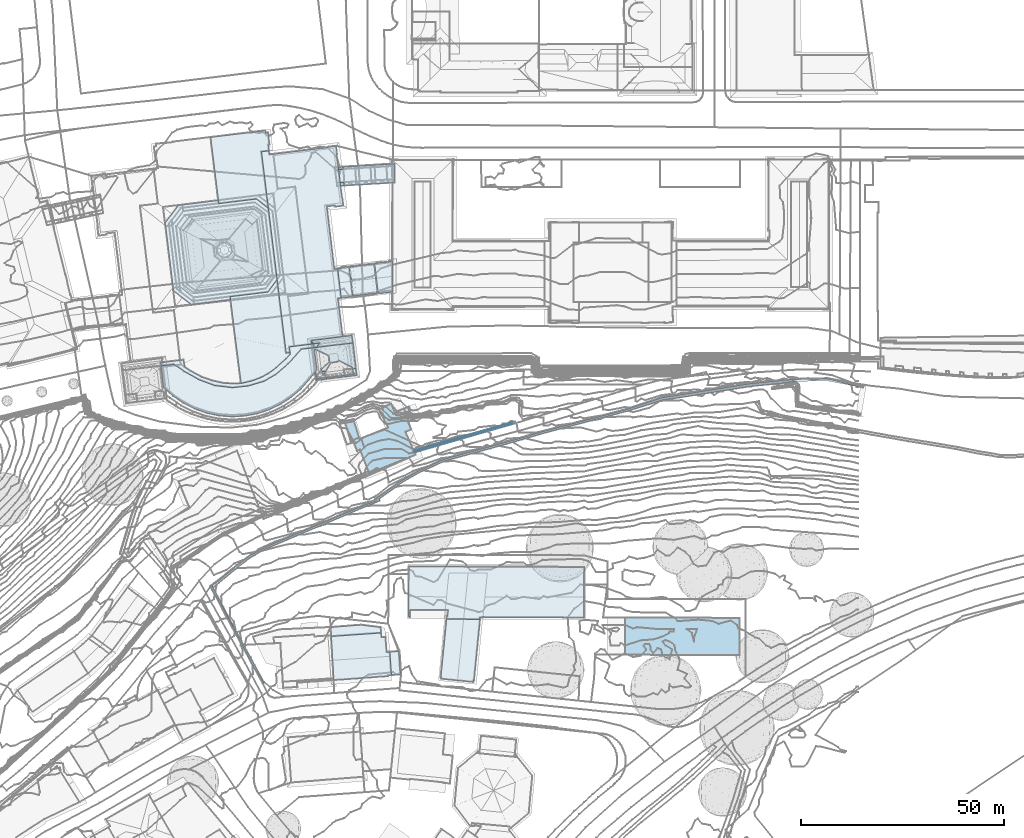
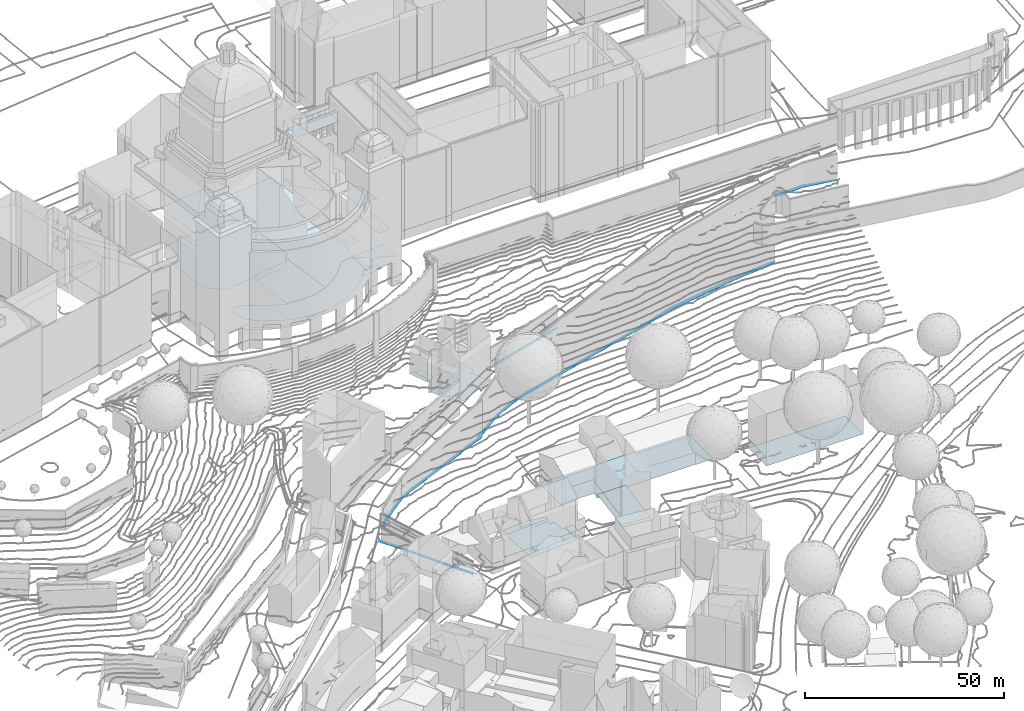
# Not in any storey, part 17 of 477: 7 footings.
"""IFC4 building model written with IfcOpenShell, lengths in metres."""

from ifc_helpers import new_model, si_unit, frame, origin_with_axes, place, context, subcontext, project, spatial, polygons, element, save


model = new_model("IFC4")

# Units and contexts
model_context = context("Model", 3, precision=1e-05, world=origin_with_axes())
body_context = subcontext(model_context, "Body", "Model", "MODEL_VIEW")
ifc_project = project(units=[si_unit("AREAUNIT", "SQUARE_METRE"), si_unit("LENGTHUNIT", "METRE")], contexts=[model_context])

# Sites, building
site_1_placement = place(None, origin_with_axes())
site_1 = spatial("IfcSite", under=ifc_project, at=site_1_placement, Name="Topoexport Site")
site_2_placement = place(site_1_placement, origin_with_axes())
site_2 = spatial("IfcSite", under=site_1, at=site_2_placement, Name="TPX_BUILDINGS")
building_1_placement = place(site_2_placement, frame((211.8297320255, 101.9383160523, 526.7541), z_axis=(0.0, 0.0, 1.0), x_axis=(1.0, 0.0, 0.0)))
building_1 = spatial("IfcBuilding", under=site_2, at=building_1_placement, Name="Building 18", CompositionType="ELEMENT")

# Footings
footing_1_placement = place(None, frame((211.8297320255, 101.9383160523, 526.7541), z_axis=(0.0, 0.0, 1.0), x_axis=(1.0, 0.0, 0.0)))
element("IfcFooting", 1, at=footing_1_placement, inside=building_1, Name="Floor 8", context=body_context, shape_type="Tessellation", body=[
    polygons([(366.9020000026, 236.121100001, -10.155), (376.1530000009, 238.4004000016, -10.155), (367.0130000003, 235.7421999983, -10.155), (376.0439999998, 238.7793000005, -10.155), (391.1020000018, 243.1074000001, -10.155), (391.2110000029, 242.7285000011, -10.155)], [[[1, 2, 3]], [[1, 4, 2]], [[5, 6, 2]], [[2, 4, 5]]]),
])
footing_2_placement = place(None, frame((211.8297320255, 101.9383160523, 526.7541), z_axis=(0.0, 0.0, 1.0), x_axis=(1.0, 0.0, 0.0)))
element("IfcFooting", 2, at=footing_2_placement, inside=building_1, Name="Floor 13", context=body_context, shape_type="Tessellation", body=[
    polygons([(358.4250000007, 224.3143999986, -20.483), (357.693, 223.8564000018, -20.483), (357.5240000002, 224.2617000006, -20.483), (364.5199999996, 228.5967000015, -20.483), (358.6170000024, 223.8066000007, -20.483), (353.4940000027, 222.2256000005, -20.483), (368.4070000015, 230.8134999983, -20.483), (364.1030000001, 228.8671999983, -20.483), (368.0720000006, 231.1268999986, -20.483), (374.5850000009, 233.6180999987, -20.483), (354.0190000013, 221.9697000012, -20.483), (330.8900000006, 212.6229999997, -20.483), (330.8370000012, 212.0936999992, -20.483), (329.2880000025, 211.7743999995, -20.483), (329.5329999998, 211.4404000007, -20.483), (327.0160000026, 210.5722000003, -20.483), (336.2930000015, 214.442400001, -20.483), (348.3960000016, 219.5342000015, -20.483), (348.2180000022, 219.9853000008, -20.483), (336.1300000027, 214.8555000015, -20.483), (389.7030000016, 237.7754000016, -20.4831), (383.9270000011, 236.6893999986, -20.4831), (389.574000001, 238.2432000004, -20.4831), (374.4420000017, 234.0780999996, -20.483), (393.450000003, 239.3104999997, -20.4831), (393.5760000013, 238.8729999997, -20.4831), (419.2030000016, 246.2578000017, -20.4829), (420.126000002, 246.566399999, -20.4829), (420.2829999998, 246.1229999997, -20.4829), (398.756000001, 240.9004000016, -20.4829), (405.6400000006, 242.7030999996, -20.4829), (398.893000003, 240.4354999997, -20.4829), (427.9169999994, 249.1737999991, -20.483), (428.0439999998, 248.5469000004, -20.483), (405.756000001, 242.2626999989, -20.4829), (384.068, 236.1963, -20.4831), (419.3350000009, 245.8231999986, -20.4829), (436.8360000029, 249.9111000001, -20.483), (460.1730000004, 253.6708999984, -0.3199), (468.6530000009, 253.8467000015, -0.3198), (460.2239999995, 253.1543000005, -0.3199), (477.4600000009, 251.6347999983, -0.3199), (468.6080000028, 253.2734000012, -0.3199), (460.2239999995, 253.1543000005, -20.483), (449.7650000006, 252.6308000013, -20.4829), (457.7770000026, 253.4296999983, -20.483), (460.1730000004, 253.6680000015, -20.483), (457.8430000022, 252.7675999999, -20.483), (436.7320000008, 250.5683000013, -20.483), (449.8500000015, 251.9706999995, -20.483), (322.7210000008, 192.8222999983, -25.2756), (322.4910000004, 192.7012000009, -25.2756), (320.0100000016, 197.3916000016, -25.2756), (320.2380000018, 197.5185000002, -25.2756), (316.9629999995, 202.6484000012, -25.2756), (317.3619999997, 202.9580000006, -25.2756), (323.4299999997, 191.4824000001, -25.2756), (330.1400000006, 179.2109000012, -25.2756), (327.4610000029, 183.2256000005, -25.2756), (327.8320000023, 183.4316000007, -25.2756), (330.2019999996, 179.1581999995, -25.2756), (329.9570000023, 179.0137000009, -25.2756), (325.9310000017, 186.9092000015, -25.2756), (325.6339999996, 186.7373000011, -25.2756), (327.3210000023, 210.2148000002, -20.483), (323.7280000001, 207.5370999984, -20.483), (325.4169999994, 209.3729999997, -20.483), (325.7039999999, 209.0243999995, -20.483), (319.1640000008, 203.6992000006, -20.483), (318.8420000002, 204.1103000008, -20.483), (317.6300000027, 202.4512000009, -20.483), (323.4570000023, 207.9023000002, -20.483), (317.3619999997, 202.9580000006, -20.483)], [[[1, 2, 3]], [[3, 4, 1]], [[2, 5, 6]], [[5, 2, 1]], [[7, 8, 9]], [[9, 10, 7]], [[3, 8, 4]], [[8, 7, 4]], [[5, 11, 6]], [[12, 13, 14]], [[15, 16, 14]], [[14, 13, 15]], [[17, 13, 12]], [[11, 18, 19]], [[19, 6, 11]], [[18, 17, 20]], [[20, 19, 18]], [[17, 12, 20]], [[21, 22, 23]], [[22, 10, 24]], [[25, 26, 23]], [[27, 28, 29]], [[30, 31, 32]], [[33, 34, 28]], [[30, 32, 25]], [[31, 27, 35]], [[21, 23, 26]], [[10, 22, 36]], [[21, 36, 22]], [[26, 25, 32]], [[37, 27, 29]], [[32, 31, 35]], [[35, 27, 37]], [[33, 38, 34]], [[29, 28, 34]], [[10, 9, 24]], [[39, 40, 41]], [[40, 42, 43]], [[43, 41, 40]], [[44, 45, 46]], [[47, 44, 46]], [[48, 45, 44]], [[33, 49, 38]], [[49, 45, 50]], [[50, 38, 49]], [[45, 48, 50]], [[51, 52, 53]], [[51, 53, 54]], [[54, 55, 56]], [[55, 54, 53]], [[51, 57, 52]], [[58, 59, 60]], [[58, 61, 62]], [[58, 62, 59]], [[52, 57, 63]], [[63, 64, 52]], [[63, 60, 64]], [[59, 64, 60]], [[65, 16, 15]], [[16, 66, 67]], [[16, 65, 68]], [[16, 68, 66]], [[66, 69, 70]], [[69, 71, 70]], [[72, 66, 70]], [[70, 71, 73]], [[72, 67, 66]]]),
])

# Building
building_2_placement = place(site_2_placement, frame((577.4937320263, 297.2000160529, 499.3887), z_axis=(0.0, 0.0, 1.0), x_axis=(1.0, 0.0, 0.0)))
building_2 = spatial("IfcBuilding", under=site_2, at=building_2_placement, Name="Building 173", CompositionType="ELEMENT")

# Footing
footing_3_placement = place(None, frame((577.4937320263, 297.2000160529, 499.3887), z_axis=(0.0, 0.0, 1.0), x_axis=(1.0, 0.0, 0.0)))
element("IfcFooting", 3, at=footing_3_placement, inside=building_2, Name="Floor 0", context=body_context, shape_type="Tessellation", body=[
    polygons([(9.3420000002, -0.5390999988, 1.1478), (8.0890000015, -14.8300999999, 1.1478), (7.9299999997, -14.8145000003, 1.1478), (12.0460000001, -15.6084000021, 1.1478), (8.0520000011, -15.2080000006, 1.1478), (17.5930000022, -0.5645000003, 1.1478), (15.9250000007, -15.634800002, 1.1478), (15.8889999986, -15.9922000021, 1.1478), (16.0839999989, -15.6504000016, 1.1478), (0.4039999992, 1.6981999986, 0.0), (0.0240000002, 4.995099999, 0.0), (9.7230000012, 1.677699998, 0.0), (0.0, 0.0, 0.0), (0.0590000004, 12.3847999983, 0.0), (0.3999999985, -0.001000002, 0.0), (17.4759999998, -0.129900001, 0.0), (9.5709999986, 0.1376999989, 0.0), (9.3420000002, -0.5390999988, 0.0), (9.4110000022, 0.1532999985, 0.0), (17.4450000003, -0.4873000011, 0.0), (17.5989999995, -0.5020000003, 0.0), (17.5930000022, -0.5645000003, 0.0), (18.0230000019, -0.0604999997, 0.0), (43.1799999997, 12.2714999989, 0.0001), (18.0230000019, -0.129900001, 0.0), (38.0150000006, -0.1143000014, 0.0), (38.0170000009, -0.1845999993, 0.0), (43.1579999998, -0.2314000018, 0.0)], [[[1, 2, 3]], [[2, 4, 5]], [[4, 2, 1]], [[6, 7, 4]], [[4, 1, 6]], [[8, 4, 7]], [[7, 6, 9]], [[10, 11, 12]], [[10, 13, 11]], [[14, 12, 11]], [[10, 15, 13]], [[12, 16, 17]], [[17, 18, 19]], [[20, 21, 22]], [[20, 17, 16]], [[18, 20, 22]], [[12, 23, 16]], [[18, 17, 20]], [[12, 14, 24]], [[16, 23, 25]], [[24, 23, 12]], [[24, 26, 23]], [[26, 24, 27]], [[24, 28, 27]]]),
])

# Building
building_3_placement = place(site_2_placement, frame((630.7837320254, 287.8680160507, 499.1767), z_axis=(0.0, 0.0, 1.0), x_axis=(1.0, 0.0, 0.0)))
building_3 = spatial("IfcBuilding", under=site_2, at=building_3_placement, Name="Building 174", CompositionType="ELEMENT")

# Footing
footing_4_placement = place(None, frame((630.7837320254, 287.8680160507, 499.1767), z_axis=(0.0, 0.0, 1.0), x_axis=(1.0, 0.0, 0.0)))
element("IfcFooting", 4, at=footing_4_placement, inside=building_3, Name="Floor 0", context=body_context, shape_type="Tessellation", body=[
    polygons([(0.0, 9.1308000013, 0.0001), (28.0600000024, 9.0703000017, 0.0), (0.0, 0.0, 0.0), (28.0730000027, -0.0409999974, 0.0)], [[[1, 2, 3]], [[4, 3, 2]]]),
])

# Building
building_4_placement = place(site_2_placement, frame((560.434732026, 345.1033160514, 517.399), z_axis=(0.0, 0.0, 1.0), x_axis=(1.0, 0.0, 0.0)))
building_4 = spatial("IfcBuilding", under=site_2, at=building_4_placement, Name="Building 181", CompositionType="ELEMENT")

# Footing
footing_5_placement = place(None, frame((560.434732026, 345.1033160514, 517.399), z_axis=(0.0, 0.0, 1.0), x_axis=(1.0, 0.0, 0.0)))
element("IfcFooting", 5, at=footing_5_placement, inside=building_4, Name="Floor 0", context=body_context, shape_type="Tessellation", body=[
    polygons([(2.8990000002, -4.6552999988, -0.4739), (3.0820000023, -5.1327999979, -0.4739), (3.0350000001, -5.1512999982, -0.4739), (1.3770000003, 0.2520000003, -0.4739), (3.5390000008, 0.6484999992, -0.4739), (4.9780000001, -3.8583999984, -0.4739), (1.3770000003, 0.2520000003, 0.0), (2.0260000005, -5.5585999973, 0.0), (0.3560000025, -1.115199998, 0.0), (0.0, 0.0, 0.0), (3.0350000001, -5.1512999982, 0.0), (4.4680000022, -7.1092999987, 0.0), (3.5920000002, -4.9266999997, 0.0), (4.4539999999, -7.0634999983, 0.0), (18.6000000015, -7.4970999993, -3.9556), (18.8200000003, -8.066399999, -3.9556), (17.3570000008, -4.7225999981, -3.9556), (12.0950000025, -1.3827999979, -3.9556), (16.3300000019, -2.432599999, -3.9556), (17.7699999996, -1.8231999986, -3.9556), (16.9589999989, 0.0694000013, -3.9556), (14.4780000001, 1.8535000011, -3.9556), (16.9849999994, 0.7432000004, -3.9556), (17.2180000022, 0.1367000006, -3.9556), (14.2089999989, 2.5800999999, -3.9556), (15.9990000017, 3.3155000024, -3.9556), (14.0080000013, 1.6757999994, -3.9556), (12.8480000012, 4.4658000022, -3.9556), (9.8310000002, 3.1387000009, -3.9556), (6.1539999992, -9.2997999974, -3.9556), (5.1830000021, -6.8231999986, -3.9556), (6.2360000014, -9.5097000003, -3.9556), (7.4589999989, -12.6279000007, -3.9556), (4.4719999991, -7.1083999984, -3.9556), (3.5920000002, -4.9266999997, -3.9556), (3.0820000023, -5.1327999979, -3.9556), (2.8990000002, -4.6552999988, -3.9556), (4.9780000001, -3.8583999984, -3.9556), (5.0749999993, -4.1611000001, -3.9556), (17.5789999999, 2.072300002, 1.6249), (15.9990000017, 3.3155000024, 1.6249), (17.2540000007, 3.8311000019, 1.6249), (16.9849999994, 0.7432000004, 1.6249), (17.9039999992, 0.3125, 1.6249), (17.2180000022, 0.1367000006, 1.6249)], [[[1, 2, 3]], [[3, 4, 1]], [[5, 6, 1]], [[1, 4, 5]], [[7, 8, 9]], [[10, 7, 9]], [[8, 7, 11]], [[12, 13, 14]], [[15, 16, 17]], [[18, 19, 17]], [[20, 19, 21]], [[21, 22, 23]], [[23, 24, 21]], [[22, 25, 26]], [[26, 23, 22]], [[27, 22, 21]], [[27, 21, 18]], [[28, 27, 29]], [[19, 18, 21]], [[16, 30, 18]], [[18, 30, 31]], [[30, 16, 32]], [[16, 33, 32]], [[34, 35, 31]], [[29, 27, 18]], [[36, 37, 35]], [[35, 38, 39]], [[35, 37, 38]], [[18, 31, 39]], [[35, 39, 31]], [[17, 16, 18]], [[40, 41, 42]], [[40, 43, 41]], [[44, 45, 40]], [[43, 40, 45]]]),
])

# Building
building_5_placement = place(site_2_placement, frame((558.3647320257, 294.6795160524, 500.6956), z_axis=(0.0, 0.0, 1.0), x_axis=(1.0, 0.0, 0.0)))
building_5 = spatial("IfcBuilding", under=site_2, at=building_5_placement, Name="Building 182", CompositionType="ELEMENT")

# Footing
footing_6_placement = place(None, frame((558.3647320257, 294.6795160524, 500.6956), z_axis=(0.0, 0.0, 1.0), x_axis=(1.0, 0.0, 0.0)))
element("IfcFooting", 6, at=footing_6_placement, inside=building_5, Name="Floor 0", context=body_context, shape_type="Tessellation", body=[
    polygons([(17.1530000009, -11.6328000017, -0.511), (14.9180000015, -11.7870999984, -0.511), (14.5219999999, -6.0546999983, -0.511), (16.756000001, -5.8993999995, -0.511), (0.4480000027, -7.8300999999, -0.656), (0.1280000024, -2.2402000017, -0.656), (12.4890000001, -2.4765999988, -0.656), (0.4640000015, -8.1191000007, -0.656), (13.7530000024, -6.1074000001, -0.656), (0.4810000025, -8.4072000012, -0.656), (12.2750000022, -12.1807000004, -0.656), (0.745000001, -13.0254000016, -0.656), (12.4130000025, -1.3887000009, -0.656), (14.5219999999, -6.0546999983, -0.656), (13.4970000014, -2.4072000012, -0.656), (14.1300000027, -11.8418000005, -0.656), (14.1449999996, -12.0439000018, -0.656), (14.9180000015, -11.7870999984, -0.656), (12.4130000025, -1.3887000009, -0.0001), (0.1280000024, -2.2402000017, 0.0), (12.3200000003, -0.0430000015, -0.0001), (0.0, 0.0, 0.0), (7.438000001, 0.5722999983, 0.0)], [[[1, 2, 3]], [[3, 4, 1]], [[5, 6, 7]], [[8, 5, 9]], [[10, 11, 12]], [[9, 11, 10]], [[9, 10, 8]], [[6, 13, 7]], [[11, 9, 14]], [[7, 15, 9]], [[11, 16, 17]], [[18, 16, 14]], [[11, 14, 16]], [[7, 9, 5]], [[19, 20, 21]], [[20, 22, 23]], [[23, 21, 20]]]),
])

# Building
building_6_placement = place(site_2_placement, frame((516.5377320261, 359.7107160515, 536.6602), z_axis=(0.0, 0.0, 1.0), x_axis=(1.0, 0.0, 0.0)))
building_6 = spatial("IfcBuilding", under=site_2, at=building_6_placement, Name="Building 193", CompositionType="ELEMENT")

# Footing
footing_7_placement = place(None, frame((516.5377320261, 359.7107160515, 536.6602), z_axis=(0.0, 0.0, 1.0), x_axis=(1.0, 0.0, 0.0)))
element("IfcFooting", 7, at=footing_7_placement, inside=building_6, Name="Floor 0", context=body_context, shape_type="Tessellation", body=[
    polygons([(14.2109999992, 39.8858000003, 1.6101), (14.307, 39.1026000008, 1.6101), (4.425999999, 38.6845999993, 1.6101), (7.5659999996, 14.2666000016, 1.6099), (1.1339999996, 34.3720999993, 1.6101), (3.1920000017, 17.6044999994, 1.6099), (17.1160000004, 16.2237000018, 1.6099), (17.2109999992, 15.4512000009, 1.6099), (23.5199999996, 40.2344000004, 1.6101), (26.4990000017, 37.9600000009, 1.6101), (28.6570000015, 20.384800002, 1.6099), (26.3460000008, 17.3575000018, 1.6099), (31.813000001, 2.4766000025, 0.117), (31.8709999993, 2.0069000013, 0.117), (30.8680000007, 2.3662, 0.117), (18.3599999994, 6.0967000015, 0.117), (17.1160000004, 16.2237000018, 0.117), (26.3460000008, 17.3575000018, 0.117), (28.6559999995, 20.3838, 0.117), (26.4290000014, -2.7040999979, 0.117), (28.4860000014, -1.2010999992, 0.117), (30.8469999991, 0.9882999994, 0.117), (24.8040000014, -3.5995999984, 0.117), (22.443, -4.4969999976, 0.117), (19.8020000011, -5.1034999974, 0.117), (44.1490000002, 44.2432000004, 13.4469), (45.0580000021, 44.2969000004, 13.4469), (44.245000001, 43.4600000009, 13.4469), (45.1050000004, 43.5108000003, 13.4469), (43.6810000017, 48.0557000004, 13.4469), (44.8300000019, 48.125, 13.4469), (43.7520000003, 47.4785000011, 13.4469), (44.8650000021, 47.5450000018, 13.4469), (44.8300000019, 48.125, 17.4466), (57.512000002, 48.8819000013, 17.4465), (44.8650000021, 47.5450000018, 17.4466), (44.1490000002, 44.2432000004, 17.4465), (43.7520000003, 47.4785999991, 17.4466), (45.0580000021, 44.2969000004, 17.4465), (57.5280000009, 44.2520000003, 17.4465), (45.1050000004, 43.509800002, 17.4465), (30.8680000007, 2.3662, 0.089), (31.6409999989, 3.8838, 0.089), (31.813000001, 2.4766000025, 0.089), (37.0379999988, 5.4405000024, 0.089), (26.7800000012, 51.1425999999, 0.0892), (43.6130000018, 15.7763999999, 0.089), (42.7280000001, 23.0205000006, 0.089), (37.1460000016, 4.5595999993, 0.089), (40.9059999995, 38.2061000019, 0.0892), (44.7699999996, 6.4004000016, 0.089), (43.5219999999, 23.1152999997, 0.089), (44.4079999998, 15.8731000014, 0.089), (42.9550000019, 38.3340000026, 0.0892), (44.6030000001, 40.5439999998, 0.0892), (44.9420000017, 38.5655000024, 0.0892), (24.7939999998, 51.8516000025, 0.0892), (40.8839999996, 38.3916000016, 0.0892), (42.9160000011, 38.6280000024, 0.0892), (41.1649999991, 52.9043000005, 0.0892), (26.6680000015, 52.0811000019, 0.0892), (43.6640000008, 48.197300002, 0.0892), (44.6979999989, 40.5547000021, 0.0892), (43.2910000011, 51.2442000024, 0.0892), (43.1440000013, 53.246100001, 0.0892), (43.3900000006, 51.2558999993, 0.0892), (41.1559999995, 53.0, 0.0892), (37.625, 4.6192000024, 0.0), (34.6059999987, 3.3252000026, 0.0), (31.6409999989, 3.8838, 0.0), (37.7420000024, 3.6963, 0.0), (31.8709999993, 2.0069000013, 0.0), (31.4310000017, -0.2196999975, 0.0), (30.8469999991, 0.9882999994, 0.0), (0.0, 0.0, 0.0), (3.2239999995, -0.4120999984, 0.0), (0.0930000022, -0.7949000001, 0.0), (5.7030000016, 0.7002000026, 0.0), (7.313000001, -2.0174999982, 0.0), (5.8720000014, -2.177699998, 0.0), (5.9479999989, -1.123999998, 0.0), (10.0540000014, -3.5214000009, 0.0), (28.4860000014, -1.2010999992, 0.0), (28.3080000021, -2.9188999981, 0.0), (26.4290000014, -2.7040999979, 0.0), (24.8040000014, -3.5995999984, 0.0), (25.4510000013, -4.5585999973, 0.0), (22.443, -4.4969999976, 0.0), (21.5879999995, -5.7225999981, 0.0), (19.8020000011, -5.1034999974, 0.0), (12.6689999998, -4.4178999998, 0.0), (13.2800000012, -5.6180999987, 0.0), (9.3110000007, -4.1356999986, 0.0), (15.1059999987, -4.9715999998, 0.0), (17.6720000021, -6.1473999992, 0.0), (17.4670000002, -5.182599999, 0.0), (37.3150000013, 4.5811000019, 0.034), (37.1460000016, 4.5595999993, 0.034), (37.2580000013, 5.0469000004, 0.034), (38.3289999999, 3.7657000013, 0.034), (39.0969999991, 4.8027999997, 0.034), (47.2609999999, 4.8233000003, 0.034), (37.0379999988, 5.4405000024, 0.034), (37.800999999, 4.6436000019, 0.034), (47.0320000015, 6.6807000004, 0.034), (47.0450000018, 6.572300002, 0.034), (38.3289999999, 3.7657000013, 0.089), (37.7420000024, 3.6963, 0.089), (37.800999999, 4.6436000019, 0.089), (37.2580000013, 5.0469000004, 0.089), (37.625, 4.6192000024, 0.089), (37.3150000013, 4.5811000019, 0.089), (39.0969999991, 4.8027999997, 0.089), (53.199000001, 24.4160999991, 1.0919), (54.2970000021, 24.5557000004, 1.0919), (53.9240000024, 17.1729000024, 1.0919), (53.4840000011, 17.1220999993, 1.0919), (52.6070000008, 24.3438000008, 1.0919), (53.1909999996, 24.5146999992, 1.0919), (54.2850000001, 24.6513999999, 1.0919), (56.9820000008, 24.9649000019, 1.0919), (56.1850000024, 24.7813000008, 1.0919), (56.1730000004, 24.8740999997, 1.0919), (56.9699999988, 17.3858000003, 1.0919), (53.9460000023, 17.0215000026, 1.0919), (23.3320000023, 56.751000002, 0.1172), (25.7650000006, 57.058600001, 0.1172), (23.3420000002, 56.6534000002, 0.1172), (26.4220000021, 56.5401000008, 0.1172), (26.4959999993, 53.5215000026, 0.1172), (25.8320000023, 56.4717000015, 0.1172), (16.4460000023, 55.9081999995, 0.1172), (21.6570000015, 56.4502000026, 0.1172), (26.4990000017, 37.9600000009, 0.1172), (24.7939999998, 51.8516000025, 0.1172), (21.6330000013, 56.5419999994, 0.1172), (14.307, 39.1026000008, 0.1172), (12.3049999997, 55.4024000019, 0.1173), (26.7820000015, 53.558600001, 0.1172), (26.6680000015, 52.0811000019, 0.1172), (23.5199999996, 40.2344000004, 0.1172), (25.3920000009, 38.8047000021, 0.1172), (45.3200000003, -3.4736000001, 7.3643), (40.8619999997, -4.0106999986, 7.3643), (45.2679999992, -3.1191000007, 7.3643), (40.754999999, -4.0262999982, 7.3643), (40.7039999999, -3.6796999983, 7.3643), (48.2259999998, -3.1210999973, 0.034), (45.3200000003, -3.4736000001, 0.034), (47.8570000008, -2.8006999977, 0.034), (48.2199999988, -3.0692999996, 0.034), (45.2679999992, -3.1191000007, 0.034), (47.2060000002, -1.5214000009, 0.034), (48.0250000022, -1.4481999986, 0.034), (47.3139999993, -2.3983999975, 0.034), (40.068, -3.0321999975, 0.034), (39.7080000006, -2.1904000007, 0.034), (40.5040000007, -2.3046999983, 0.034), (40.4770000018, -2.1210999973, 0.034), (38.7580000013, -4.2987999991, 0.034), (38.3650000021, -3.9668000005, 0.034), (40.754999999, -4.0262999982, 0.034), (38.2340000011, -4.3270999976, 0.034), (38.2129999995, -4.1523000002, 0.034), (38.1420000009, -3.5751999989, 0.034), (38.2930000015, -3.3817999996, 0.034), (40.7039999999, -3.6796000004, 0.034), (47.3090000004, 4.8282000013, 7.3643), (43.7630000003, 0.5108000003, 7.3643), (41.3579999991, 1.6865999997, 7.3643), (38.1000000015, 3.2168000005, 7.3643), (43.5080000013, 0.1660999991, 7.3643), (41.8630000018, -0.0361000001, 7.3643), (41.5390000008, 0.2032000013, 7.3643), (39.4809999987, -1.6571999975, 7.3643), (40.4770000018, -2.1210999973, 7.3643), (47.1689999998, -1.2177000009, 7.3643), (37.8080000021, 3.1827000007, 7.3643), (34.6059999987, 3.3252000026, 7.3643), (31.4310000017, -0.2196999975, 7.3643), (38.4360000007, -1.7626999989, 7.3643), (38.1409999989, -2.1395999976, 7.3643), (28.3080000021, -2.9188999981, 7.3643), (40.5040000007, -2.3066000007, 7.3643), (47.2060000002, -1.5214000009, 7.3643), (48.0329999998, -1.4472000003, 7.3643), (38.2930000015, -3.3817999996, 7.3643), (37.9900000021, -2.3319999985, 7.3643), (39.7080000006, -2.1904000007, 7.3643), (38.1429999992, -3.5742000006, 7.3643), (36.6040000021, -4.0986000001, 7.3643), (25.4510000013, -4.5585999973, 7.3643), (21.5879999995, -5.7225999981, 7.3643), (11.4200000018, -12.4043000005, 7.3643), (17.6720000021, -6.1473999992, 7.3643), (34.5260000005, -6.427699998, 7.3643), (5.8720000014, -2.177699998, 7.3643), (0.0930000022, -0.7949000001, 7.3643), (3.2239999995, -0.4120999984, 7.3643), (0.7100000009, -6.0672999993, 7.3643), (3.1040000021, -8.2128999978, 7.3643), (9.3110000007, -4.1356999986, 7.3643), (13.2800000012, -5.6180999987, 7.3643), (5.6850000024, -9.9686999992, 7.3643), (26.7380000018, -11.5340999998, 7.3643), (29.5500000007, -10.177699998, 7.3643), (32.1610000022, -8.4657999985, 7.3643), (23.7730000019, -12.5117000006, 7.3643), (20.7060000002, -13.0936999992, 7.3643), (17.5890000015, -13.2714000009, 7.3643), (14.4759999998, -13.0399999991, 7.3643), (8.4719999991, -11.375, 7.3643), (47.4719999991, 16.3887000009, 11.5369), (47.2719999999, 23.6953000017, 11.9369), (48.1490000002, 16.4717000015, 11.9369), (46.5940000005, 23.6132999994, 11.5369), (48.2860000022, 23.8183999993, 12.2049), (49.1629999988, 16.5947999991, 12.2048), (49.4809999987, 23.9638999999, 12.2988), (50.3590000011, 16.7412, 12.2988), (50.6779999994, 24.1094000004, 12.2049), (51.5549999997, 16.8868000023, 12.2048), (52.569000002, 17.0108000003, 11.9369), (51.6920000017, 24.2334000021, 11.9369), (52.368999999, 24.3155000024, 11.5369), (53.2470000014, 17.0928000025, 11.5369), (44.686999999, 23.5020000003, 1.0919), (45.7540000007, 23.629900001, 1.0919), (44.6999999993, 23.3731000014, 1.0919), (44.3729999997, 23.2149000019, 1.0919), (44.370000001, 23.3359999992, 1.0919), (44.4079999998, 15.8731000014, 1.0919), (43.5219999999, 23.1152999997, 1.0919), (45.7679999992, 23.5362000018, 1.0919), (46.3530000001, 23.6044999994, 1.0919), (46.7820000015, 16.3047000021, 1.0919), (47.2340000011, 16.3604000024, 1.0919), (46.7939999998, 16.1641000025, 1.0919)], [[[1, 2, 3]], [[2, 4, 3]], [[5, 4, 6]], [[7, 8, 4]], [[5, 3, 4]], [[7, 4, 2]], [[9, 7, 2]], [[10, 11, 9]], [[9, 11, 12]], [[7, 9, 12]], [[13, 14, 15]], [[16, 17, 18]], [[19, 15, 18]], [[20, 16, 18]], [[15, 21, 18]], [[15, 22, 21]], [[18, 21, 20]], [[16, 23, 24]], [[24, 25, 16]], [[23, 16, 20]], [[15, 14, 22]], [[26, 27, 28]], [[29, 28, 27]], [[30, 31, 32]], [[33, 32, 31]], [[34, 35, 36]], [[37, 38, 39]], [[36, 39, 38]], [[40, 39, 36]], [[36, 35, 40]], [[41, 39, 40]], [[42, 43, 44]], [[45, 43, 46]], [[47, 45, 48]], [[45, 49, 43]], [[48, 45, 50]], [[51, 45, 47]], [[52, 53, 48]], [[54, 55, 56]], [[48, 53, 47]], [[42, 57, 43]], [[45, 58, 50]], [[43, 57, 46]], [[59, 58, 60]], [[46, 58, 45]], [[57, 61, 46]], [[58, 46, 60]], [[60, 62, 59]], [[59, 62, 55]], [[56, 55, 63]], [[64, 60, 65]], [[65, 66, 64]], [[62, 60, 64]], [[60, 67, 65]], [[54, 59, 55]], [[68, 69, 70]], [[68, 71, 69]], [[69, 72, 70]], [[72, 69, 73]], [[73, 74, 72]], [[75, 76, 77]], [[75, 78, 76]], [[79, 80, 81]], [[76, 81, 80]], [[79, 82, 80]], [[76, 78, 81]], [[74, 73, 83]], [[84, 85, 83]], [[83, 73, 84]], [[84, 86, 85]], [[87, 88, 86]], [[86, 84, 87]], [[89, 90, 88]], [[88, 87, 89]], [[91, 92, 93]], [[93, 80, 82]], [[82, 91, 93]], [[94, 92, 91]], [[95, 96, 90]], [[90, 89, 95]], [[96, 95, 92]], [[92, 94, 96]], [[97, 98, 99]], [[100, 101, 102]], [[101, 103, 102]], [[99, 101, 104]], [[99, 98, 103]], [[103, 105, 106]], [[102, 103, 106]], [[101, 99, 103]], [[107, 108, 109]], [[110, 109, 111]], [[111, 112, 110]], [[107, 109, 113]], [[108, 111, 109]], [[114, 115, 116]], [[114, 117, 118]], [[114, 116, 117]], [[119, 120, 114]], [[121, 122, 123]], [[121, 124, 122]], [[124, 116, 115]], [[114, 120, 115]], [[125, 116, 124]], [[124, 115, 122]], [[126, 127, 128]], [[129, 130, 131]], [[127, 131, 128]], [[132, 133, 134]], [[133, 128, 135]], [[133, 132, 136]], [[132, 137, 138]], [[135, 128, 131]], [[130, 129, 139]], [[140, 135, 130]], [[134, 141, 132]], [[137, 132, 141]], [[134, 142, 141]], [[133, 135, 134]], [[135, 131, 130]], [[143, 144, 145]], [[144, 146, 147]], [[147, 145, 144]], [[148, 149, 150]], [[151, 148, 150]], [[152, 150, 149]], [[153, 154, 155]], [[154, 151, 150]], [[150, 155, 154]], [[156, 157, 158]], [[158, 157, 159]], [[160, 161, 162]], [[160, 163, 164]], [[165, 161, 164]], [[161, 165, 166]], [[162, 161, 167]], [[160, 164, 161]], [[168, 169, 170]], [[170, 171, 168]], [[172, 173, 174]], [[169, 172, 174]], [[175, 173, 176]], [[168, 177, 169]], [[169, 174, 170]], [[171, 178, 179]], [[179, 168, 171]], [[180, 178, 181]], [[175, 174, 173]], [[181, 182, 183]], [[176, 173, 184]], [[185, 177, 186]], [[177, 168, 186]], [[182, 187, 188]], [[189, 175, 176]], [[183, 182, 188]], [[188, 187, 190]], [[191, 183, 188]], [[180, 179, 178]], [[192, 183, 191]], [[193, 194, 195]], [[192, 196, 193]], [[192, 191, 196]], [[197, 198, 199]], [[197, 200, 198]], [[201, 202, 203]], [[200, 197, 202]], [[195, 204, 203]], [[200, 202, 201]], [[205, 194, 206]], [[193, 207, 206]], [[208, 209, 210]], [[205, 208, 211]], [[196, 207, 193]], [[194, 212, 195]], [[194, 193, 206]], [[208, 210, 211]], [[205, 211, 194]], [[204, 195, 212]], [[203, 204, 201]], [[183, 180, 181]], [[213, 214, 215]], [[214, 213, 216]], [[217, 218, 214]], [[215, 214, 218]], [[219, 220, 217]], [[218, 217, 220]], [[220, 221, 222]], [[221, 220, 219]], [[222, 221, 223]], [[224, 223, 221]], [[225, 226, 224]], [[223, 224, 226]], [[227, 228, 229]], [[229, 230, 231]], [[230, 232, 233]], [[230, 229, 232]], [[234, 232, 229]], [[235, 236, 234]], [[232, 234, 236]], [[236, 235, 237]], [[232, 236, 238]], [[229, 228, 234]]]),
])

save(model, "model.ifc")
